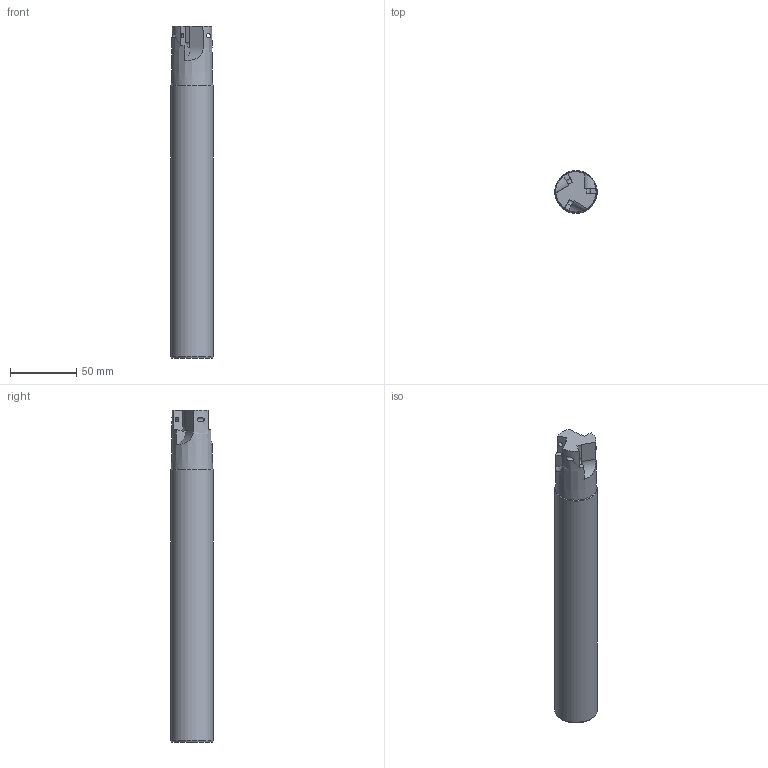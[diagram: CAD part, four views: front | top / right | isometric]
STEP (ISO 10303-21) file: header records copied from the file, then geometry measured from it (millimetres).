
FILE_DESCRIPTION(/* description */ (''),/* implementation_level */ '2;1');
FILE_NAME(/* name */ 'Z:\Проектный отдел\Влад\Фрезы исправления\BAP400R-C32-32-250-3T.stp',/* time_stamp */ '2023-06-05T15:36:45+03:00',/* author */ ('инженер'),/* organization */ (''),/* preprocessor_version */ 'ST-DEVELOPER v18',/* originating_system */ 'Autodesk Inventor 2020',/* authorisation */ '');
FILE_SCHEMA (('AUTOMOTIVE_DESIGN { 1 0 10303 214 3 1 1 }'));
Length unit declared in the file: millimetre
Products named in the file (1): BAP400R-C32-32-250-3T
Bounding box: 32 x 32 x 250 mm (x, y, z)
Volume: 192043 mm3; surface area: 26839.1 mm2
Topology: 1 solids, 1 shells, 30 faces, 91 edges, 63 vertices
Faces by surface type: plane 17, cylinder 10, cone 3
Full cylindrical faces by diameter (mm): 3.3 x3, 32 x1
Entity records: 1289 total; most frequent: CARTESIAN_POINT 381, ORIENTED_EDGE 182, DIRECTION 166, EDGE_CURVE 91, VERTEX_POINT 63, AXIS2_PLACEMENT_3D 60, LINE 46, VECTOR 46
